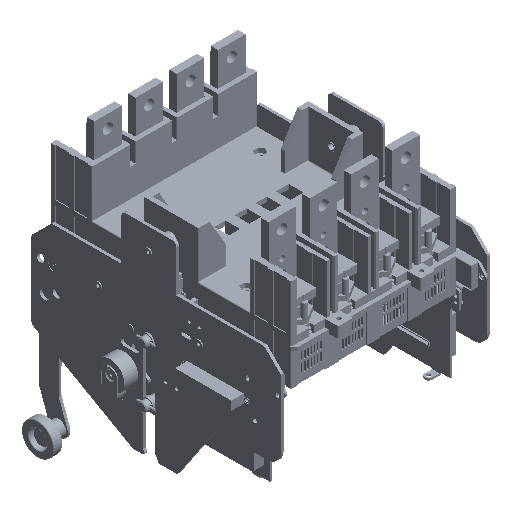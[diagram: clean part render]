
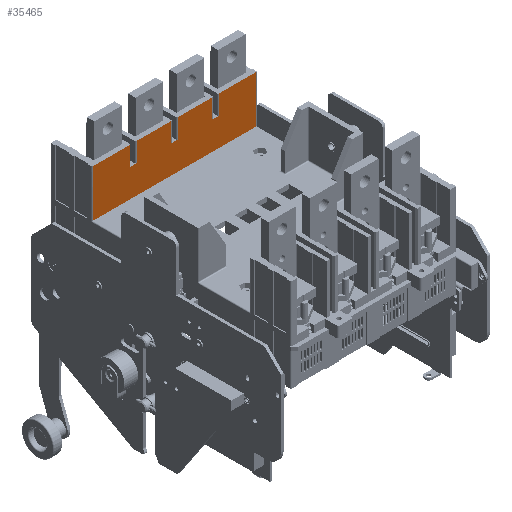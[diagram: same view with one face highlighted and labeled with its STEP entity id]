
A CAD part, isometric view. The second image highlights one B-rep face of the part: STEP entity #35465.
In plain terms, the highlighted planar face has unit normal (0, -1, 0).
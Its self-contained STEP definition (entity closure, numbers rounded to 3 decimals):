
#1882 = LINE ( 'NONE', #120618, #63037 ) ;
#4378 = CARTESIAN_POINT ( 'NONE',  ( 86.4, 171.5, 101.5 ) ) ;
#4729 = CARTESIAN_POINT ( 'NONE',  ( 41.4, 171.5, -111.719 ) ) ;
#4799 = DIRECTION ( 'NONE',  ( -1., 0., 0. ) ) ;
#4908 = ORIENTED_EDGE ( 'NONE', *, *, #89157, .F. ) ;
#6162 = EDGE_CURVE ( 'NONE', #49040, #107351, #1882, .T. ) ;
#10561 = EDGE_CURVE ( 'NONE', #61618, #24561, #93127, .T. ) ;
#11114 = CARTESIAN_POINT ( 'NONE',  ( -5.599, 171.5, -111.719 ) ) ;
#13077 = DIRECTION ( 'NONE',  ( 0., 0., 1. ) ) ;
#13092 = CARTESIAN_POINT ( 'NONE',  ( 131.4, 171.5, 101.5 ) ) ;
#15268 = CARTESIAN_POINT ( 'NONE',  ( 138.6, 171.5, -111.719 ) ) ;
#15312 = LINE ( 'NONE', #45102, #42025 ) ;
#15751 = LINE ( 'NONE', #39510, #60207 ) ;
#16046 = ORIENTED_EDGE ( 'NONE', *, *, #119159, .F. ) ;
#16645 = DIRECTION ( 'NONE',  ( 0., 0., -1. ) ) ;
#17051 = ORIENTED_EDGE ( 'NONE', *, *, #122434, .F. ) ;
#17951 = DIRECTION ( 'NONE',  ( 1., 0., 0. ) ) ;
#18158 = EDGE_CURVE ( 'NONE', #25440, #74538, #104147, .T. ) ;
#18558 = VECTOR ( 'NONE', #13077, 1000. ) ;
#19531 = VERTEX_POINT ( 'NONE', #65311 ) ;
#19644 = VECTOR ( 'NONE', #67078, 1000. ) ;
#21464 = CARTESIAN_POINT ( 'NONE',  ( 1., 171.5, 50. ) ) ;
#23027 = LINE ( 'NONE', #50836, #18558 ) ;
#23191 = VECTOR ( 'NONE', #56898, 1000. ) ;
#23279 = VECTOR ( 'NONE', #27994, 1000. ) ;
#23954 = VECTOR ( 'NONE', #16645, 1000. ) ;
#24561 = VERTEX_POINT ( 'NONE', #4378 ) ;
#24626 = ORIENTED_EDGE ( 'NONE', *, *, #119172, .F. ) ;
#25001 = CARTESIAN_POINT ( 'NONE',  ( 131.4, 171.5, -111.719 ) ) ;
#25440 = VERTEX_POINT ( 'NONE', #13092 ) ;
#27008 = AXIS2_PLACEMENT_3D ( 'NONE', #11114, #50746, #42875 ) ;
#27994 = DIRECTION ( 'NONE',  ( 0., 0., -1. ) ) ;
#29290 = VERTEX_POINT ( 'NONE', #120242 ) ;
#30518 = CARTESIAN_POINT ( 'NONE',  ( -5.599, 171.5, 101.5 ) ) ;
#33840 = LINE ( 'NONE', #105079, #23279 ) ;
#33962 = CARTESIAN_POINT ( 'NONE',  ( 93.6, 171.5, 80.5 ) ) ;
#34537 = ORIENTED_EDGE ( 'NONE', *, *, #57520, .F. ) ;
#35465 = ADVANCED_FACE ( 'NONE', ( #82322 ), #100134, .F. ) ;
#35551 = LINE ( 'NONE', #114529, #19644 ) ;
#38507 = VECTOR ( 'NONE', #60642, 1000. ) ;
#39510 = CARTESIAN_POINT ( 'NONE',  ( -5.599, 171.5, 80.5 ) ) ;
#41076 = ORIENTED_EDGE ( 'NONE', *, *, #97406, .F. ) ;
#42025 = VECTOR ( 'NONE', #74769, 1000. ) ;
#42875 = DIRECTION ( 'NONE',  ( 1., 0., 0. ) ) ;
#43415 = DIRECTION ( 'NONE',  ( 1., 0., 0. ) ) ;
#45102 = CARTESIAN_POINT ( 'NONE',  ( 179., 171.5, -111.719 ) ) ;
#48673 = EDGE_CURVE ( 'NONE', #24561, #60235, #33840, .T. ) ;
#49040 = VERTEX_POINT ( 'NONE', #81856 ) ;
#49425 = DIRECTION ( 'NONE',  ( 1., 0., 0. ) ) ;
#49764 = CARTESIAN_POINT ( 'NONE',  ( 179., 171.5, 50. ) ) ;
#50231 = LINE ( 'NONE', #66019, #98132 ) ;
#50746 = DIRECTION ( 'NONE',  ( 0., 1., 0. ) ) ;
#50753 = EDGE_CURVE ( 'NONE', #119376, #74964, #23027, .T. ) ;
#50836 = CARTESIAN_POINT ( 'NONE',  ( 93.6, 171.5, -111.719 ) ) ;
#51125 = VECTOR ( 'NONE', #100938, 1000. ) ;
#53431 = CARTESIAN_POINT ( 'NONE',  ( 86.4, 171.5, 80.5 ) ) ;
#54802 = LINE ( 'NONE', #106260, #99860 ) ;
#56194 = ORIENTED_EDGE ( 'NONE', *, *, #57549, .F. ) ;
#56898 = DIRECTION ( 'NONE',  ( 0., 0., 1. ) ) ;
#57520 = EDGE_CURVE ( 'NONE', #107987, #58006, #66108, .T. ) ;
#57549 = EDGE_CURVE ( 'NONE', #115515, #76150, #80064, .T. ) ;
#58006 = VERTEX_POINT ( 'NONE', #108744 ) ;
#60207 = VECTOR ( 'NONE', #49425, 1000. ) ;
#60235 = VERTEX_POINT ( 'NONE', #53431 ) ;
#60642 = DIRECTION ( 'NONE',  ( 0., 0., -1. ) ) ;
#61618 = VERTEX_POINT ( 'NONE', #69384 ) ;
#63037 = VECTOR ( 'NONE', #43415, 1000. ) ;
#64023 = ORIENTED_EDGE ( 'NONE', *, *, #94970, .F. ) ;
#65311 = CARTESIAN_POINT ( 'NONE',  ( 138.6, 171.5, 80.5 ) ) ;
#66019 = CARTESIAN_POINT ( 'NONE',  ( -5.599, 171.5, 101.5 ) ) ;
#66108 = LINE ( 'NONE', #30518, #83637 ) ;
#67078 = DIRECTION ( 'NONE',  ( 1., 0., 0. ) ) ;
#67687 = LINE ( 'NONE', #89418, #103646 ) ;
#67710 = EDGE_CURVE ( 'NONE', #19531, #78798, #122169, .T. ) ;
#69384 = CARTESIAN_POINT ( 'NONE',  ( 48.6, 171.5, 101.5 ) ) ;
#70828 = VECTOR ( 'NONE', #17951, 1000. ) ;
#71385 = CARTESIAN_POINT ( 'NONE',  ( -5.599, 171.5, 101.5 ) ) ;
#71669 = DIRECTION ( 'NONE',  ( 0., 0., 1. ) ) ;
#74538 = VERTEX_POINT ( 'NONE', #102747 ) ;
#74769 = DIRECTION ( 'NONE',  ( 0., 0., -1. ) ) ;
#74964 = VERTEX_POINT ( 'NONE', #87473 ) ;
#76150 = VERTEX_POINT ( 'NONE', #21464 ) ;
#78183 = ORIENTED_EDGE ( 'NONE', *, *, #67710, .F. ) ;
#78798 = VERTEX_POINT ( 'NONE', #116797 ) ;
#79991 = LINE ( 'NONE', #4729, #23954 ) ;
#80064 = LINE ( 'NONE', #111720, #85200 ) ;
#81856 = CARTESIAN_POINT ( 'NONE',  ( 41.4, 171.5, 80.5 ) ) ;
#82322 = FACE_OUTER_BOUND ( 'NONE', #98236, .T. ) ;
#82410 = DIRECTION ( 'NONE',  ( 1., 0., 0. ) ) ;
#83637 = VECTOR ( 'NONE', #93764, 1000. ) ;
#85082 = EDGE_CURVE ( 'NONE', #58006, #49040, #79991, .T. ) ;
#85200 = VECTOR ( 'NONE', #4799, 1000. ) ;
#85644 = ORIENTED_EDGE ( 'NONE', *, *, #50753, .F. ) ;
#87473 = CARTESIAN_POINT ( 'NONE',  ( 93.6, 171.5, 101.5 ) ) ;
#89157 = EDGE_CURVE ( 'NONE', #29290, #115515, #15312, .T. ) ;
#89418 = CARTESIAN_POINT ( 'NONE',  ( 1., 171.5, -111.719 ) ) ;
#91945 = CARTESIAN_POINT ( 'NONE',  ( 48.6, 171.5, 80.5 ) ) ;
#93127 = LINE ( 'NONE', #71385, #70828 ) ;
#93764 = DIRECTION ( 'NONE',  ( 1., 0., 0. ) ) ;
#94081 = ORIENTED_EDGE ( 'NONE', *, *, #85082, .F. ) ;
#94970 = EDGE_CURVE ( 'NONE', #78798, #29290, #50231, .T. ) ;
#96376 = ORIENTED_EDGE ( 'NONE', *, *, #99596, .F. ) ;
#97406 = EDGE_CURVE ( 'NONE', #74964, #25440, #35551, .T. ) ;
#98132 = VECTOR ( 'NONE', #113479, 1000. ) ;
#98236 = EDGE_LOOP ( 'NONE', ( #64023, #78183, #96376, #113419, #41076, #85644, #16046, #103028, #105235, #24626, #105522, #94081, #34537, #17051, #56194, #4908 ) ) ;
#99596 = EDGE_CURVE ( 'NONE', #74538, #19531, #54802, .T. ) ;
#99860 = VECTOR ( 'NONE', #82410, 1000. ) ;
#100134 = PLANE ( 'NONE',  #27008 ) ;
#100840 = CARTESIAN_POINT ( 'NONE',  ( 48.6, 171.5, -111.719 ) ) ;
#100938 = DIRECTION ( 'NONE',  ( 0., 0., 1. ) ) ;
#102747 = CARTESIAN_POINT ( 'NONE',  ( 131.4, 171.5, 80.5 ) ) ;
#103028 = ORIENTED_EDGE ( 'NONE', *, *, #48673, .F. ) ;
#103646 = VECTOR ( 'NONE', #71669, 1000. ) ;
#104147 = LINE ( 'NONE', #25001, #38507 ) ;
#105079 = CARTESIAN_POINT ( 'NONE',  ( 86.4, 171.5, -111.719 ) ) ;
#105235 = ORIENTED_EDGE ( 'NONE', *, *, #10561, .F. ) ;
#105522 = ORIENTED_EDGE ( 'NONE', *, *, #6162, .F. ) ;
#106260 = CARTESIAN_POINT ( 'NONE',  ( -5.599, 171.5, 80.5 ) ) ;
#107351 = VERTEX_POINT ( 'NONE', #91945 ) ;
#107987 = VERTEX_POINT ( 'NONE', #108210 ) ;
#108210 = CARTESIAN_POINT ( 'NONE',  ( 1., 171.5, 101.5 ) ) ;
#108744 = CARTESIAN_POINT ( 'NONE',  ( 41.4, 171.5, 101.5 ) ) ;
#108746 = LINE ( 'NONE', #100840, #51125 ) ;
#111720 = CARTESIAN_POINT ( 'NONE',  ( 135., 171.5, 50. ) ) ;
#113419 = ORIENTED_EDGE ( 'NONE', *, *, #18158, .F. ) ;
#113479 = DIRECTION ( 'NONE',  ( 1., 0., 0. ) ) ;
#114529 = CARTESIAN_POINT ( 'NONE',  ( -5.599, 171.5, 101.5 ) ) ;
#115515 = VERTEX_POINT ( 'NONE', #49764 ) ;
#116797 = CARTESIAN_POINT ( 'NONE',  ( 138.6, 171.5, 101.5 ) ) ;
#119159 = EDGE_CURVE ( 'NONE', #60235, #119376, #15751, .T. ) ;
#119172 = EDGE_CURVE ( 'NONE', #107351, #61618, #108746, .T. ) ;
#119376 = VERTEX_POINT ( 'NONE', #33962 ) ;
#120242 = CARTESIAN_POINT ( 'NONE',  ( 179., 171.5, 101.5 ) ) ;
#120618 = CARTESIAN_POINT ( 'NONE',  ( -5.599, 171.5, 80.5 ) ) ;
#122169 = LINE ( 'NONE', #15268, #23191 ) ;
#122434 = EDGE_CURVE ( 'NONE', #76150, #107987, #67687, .T. ) ;
